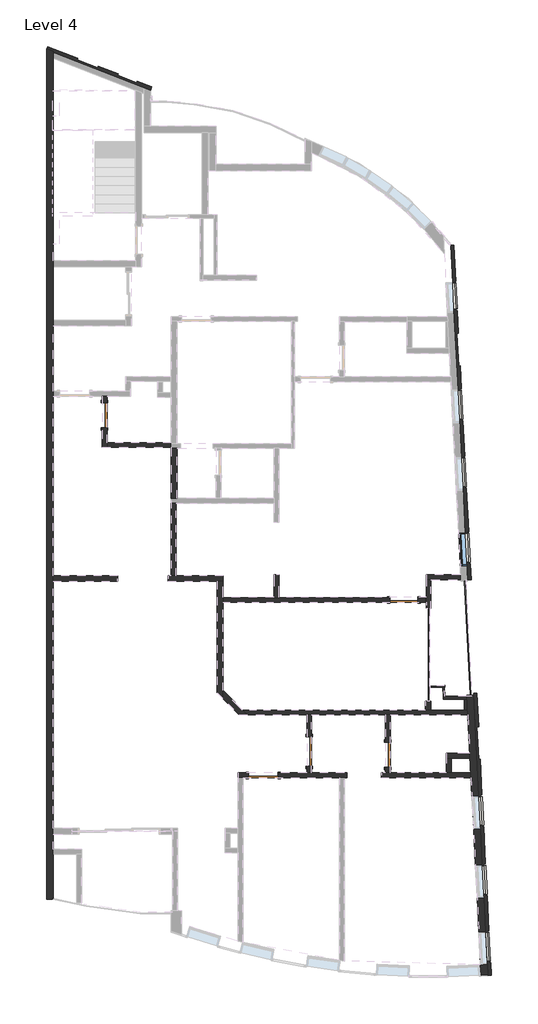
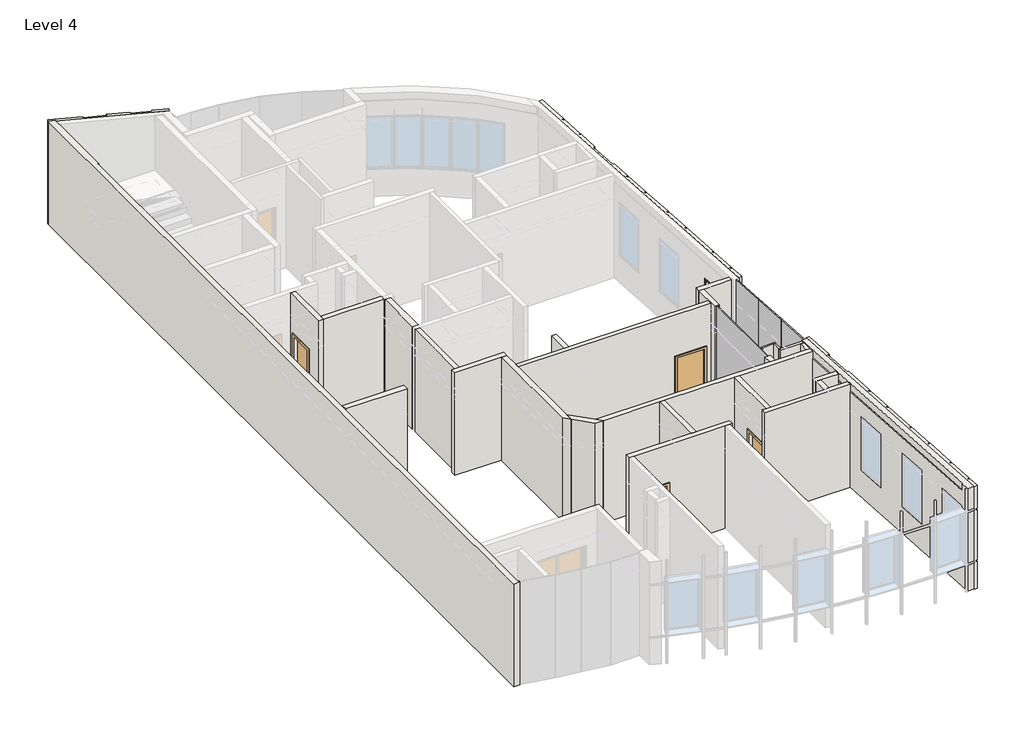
# One storey, part 2 of 5: 28 walls, 5 doors, 4 plates, 1 window.
"""IFC4 building model written with IfcOpenShell, lengths in millimetres."""

from ifc_helpers import new_model, si_unit, frame, origin, place, context, project, spatial, polyline, circle_curve, outline, extrude, faceted_brep, transform, mapped, element, save
from ifc_brep_helpers import plane_surface, cylinder_surface, revolved_surface, advanced_brep
from components import m_single_flush_0762_x_2134mm_8c18b9de, m_single_flush_0762_x_2134mm_1533e4c5, m_single_flush_0864_x_2032mm_5b632350, m_single_flush_0915_x_2134mm_138fd904, system_panel_glazed_de1ac752, system_panel_glazed_2b276406, system_panel_glazed_4e3138d7, wall_fa0acf3e, wall_c10d9c7b, m_fixed_1000_x_1830mm_2_3397196e

model = new_model("IFC4")

# Units and contexts
model_context = context("Model", 3, world=origin())
ifc_project = project(units=[si_unit("LENGTHUNIT", "METRE", prefix="MILLI")], contexts=[model_context])

# Site, building, storey
site = spatial("IfcSite", under=ifc_project)
building = spatial("IfcBuilding", under=site)
storey = spatial("IfcBuildingStorey", under=building, Name="Level 4", Elevation=15000.0)

# Doors
placement = place(None, origin())
m_single_flush_0762_x_2134mm_shape = m_single_flush_0762_x_2134mm_8c18b9de(model_context)
element("IfcDoor", 1, ObjectType="M_Single-Flush : 0762 x 2134mm", at=placement, inside=storey, context=model_context, shape_type="MappedRepresentation", body=[
    mapped(m_single_flush_0762_x_2134mm_shape, transform((1524.9578776, 3975.8830582, 15000.0), x_axis=(0.0, 1.0, 0.0), y_axis=(-1.0, 0.0, 0.0), z_axis=(0.0, 0.0, 1.0))),
])
m_single_flush_0762_x_2134mm_2_shape = m_single_flush_0762_x_2134mm_1533e4c5(model_context)
element("IfcDoor", 2, ObjectType="M_Single-Flush : 0762 x 2134mm", at=placement, inside=storey, context=model_context, shape_type="MappedRepresentation", body=[
    mapped(m_single_flush_0762_x_2134mm_2_shape, transform((10205.2907737, -6412.7981953, 15000.0), x_axis=(0.0, -1.0, 0.0), y_axis=(1.0, 0.0, 0.0), z_axis=(0.0, 0.0, 1.0))),
])
m_single_flush_0864_x_2032mm_shape = m_single_flush_0864_x_2032mm_5b632350(model_context)
element("IfcDoor", 3, ObjectType="M_Single-Flush : 0864 x 2032mm", at=placement, inside=storey, context=model_context, shape_type="MappedRepresentation", body=[
    mapped(m_single_flush_0864_x_2032mm_shape, transform((10697.9578778, -1678.9547298, 15000.0), x_axis=(1.0, 0.0, 0.0), y_axis=(0.0, 1.0, 0.0), z_axis=(0.0, 0.0, 1.0))),
])
m_single_flush_0915_x_2134mm_shape = m_single_flush_0915_x_2134mm_138fd904(model_context)
element("IfcDoor", 4, ObjectType="M_Single-Flush : 0915 x 2134mm", at=placement, inside=storey, context=model_context, shape_type="MappedRepresentation", body=[
    mapped(m_single_flush_0915_x_2134mm_shape, transform((6387.7907737, -7048.7981953, 15000.0), x_axis=(-1.0, 0.0, 0.0), y_axis=(0.0, -1.0, 0.0), z_axis=(0.0, 0.0, 1.0))),
])
element("IfcDoor", 5, ObjectType="M_Single-Flush : 0915 x 2134mm", at=placement, inside=storey, context=model_context, shape_type="MappedRepresentation", body=[
    mapped(m_single_flush_0915_x_2134mm_shape, transform((7795.2909314, -6316.2981953, 15000.0), x_axis=(0.0, -1.0, 0.0), y_axis=(1.0, 0.0, 0.0), z_axis=(0.0, 0.0, 1.0))),
])

# Plates
system_panel_glazed_shape = system_panel_glazed_de1ac752(model_context)
element("IfcPlate", 6, ObjectType="System Panel : Glazed", at=placement, inside=storey, context=model_context, shape_type="MappedRepresentation", body=[
    mapped(system_panel_glazed_shape, transform((12744.4041239, -4004.5629241, 15000.0), x_axis=(-0.05083502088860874, 0.9987070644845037, 0.0), y_axis=(-0.9987070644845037, -0.05083502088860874, 0.0), z_axis=(0.0, 0.0, 1.0))),
])
element("IfcPlate", 7, ObjectType="System Panel : Glazed", at=placement, inside=storey, context=model_context, shape_type="MappedRepresentation", body=[
    mapped(system_panel_glazed_shape, transform((12685.4354997, -2846.0627293, 15000.0), x_axis=(-0.05083502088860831, 0.9987070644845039, 0.0), y_axis=(-0.9987070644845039, -0.05083502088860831, 0.0), z_axis=(0.0, 0.0, 1.0))),
])
system_panel_glazed_2_shape = system_panel_glazed_2b276406(model_context)
element("IfcPlate", 8, ObjectType="System Panel : Glazed", at=placement, inside=storey, context=model_context, shape_type="MappedRepresentation", body=[
    mapped(system_panel_glazed_2_shape, transform((12626.3225461, -1684.727034, 15000.0), x_axis=(-0.05083502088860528, 0.998707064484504, 0.0), y_axis=(-0.998707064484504, -0.05083502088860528, 0.0), z_axis=(0.0, 0.0, 1.0))),
])
system_panel_glazed_3_shape = system_panel_glazed_4e3138d7(model_context)
element("IfcPlate", 9, ObjectType="System Panel : Glazed", at=placement, inside=storey, context=model_context, shape_type="MappedRepresentation", body=[
    mapped(system_panel_glazed_3_shape, transform((11490.9685725, -3358.899384, 15000.0), x_axis=(0.0, 1.0, 0.0), y_axis=(-1.0, 0.0, 0.0), z_axis=(0.0, 0.0, 1.0))),
])

# Walls
element("IfcWall", 10, ObjectType="Generic - 15cm-gypsu-2boith", at=placement, inside=storey, context=model_context, shape_type="Brep", body=[
    faceted_brep([(11349.9578778, -1603.9547298, 15000.0), (11129.9578778, -1603.9547298, 15000.0), (11129.9578778, -1603.9547298, 17032.0), (10265.9578778, -1603.9547298, 17032.0), (10265.9578778, -1603.9547298, 15000.0), (6869.9578779, -1603.9547298, 15000.0), (6719.9578779, -1603.9547298, 15000.0), (5149.9578778, -1603.9547298, 15000.0), (5149.9578778, -1603.9547298, 18500.0), (6719.9578779, -1603.9547298, 18500.0), (6869.9578779, -1603.9547298, 18500.0), (11349.9578778, -1603.9547298, 18500.0), (11129.9578778, -1753.9547298, 17032.0), (11129.9578778, -1753.9547298, 15000.0), (11349.9578778, -1753.9547298, 15000.0), (11349.9578778, -1753.9547298, 18500.0), (5149.9578778, -1753.9547298, 18500.0), (5149.9578778, -1753.9547298, 15000.0), (10265.9578778, -1753.9547298, 15000.0), (10265.9578778, -1753.9547298, 17032.0)], [[[0, 1, 2, 3, 4, 5, 6, 7, 8, 9, 10, 11]], [[12, 13, 14, 15, 16, 17, 18, 19]], [[18, 17, 7, 6, 5, 4]], [[14, 13, 1, 0]], [[11, 10, 9, 8, 16, 15]], [[0, 11, 15, 14]], [[8, 7, 17, 16]], [[2, 1, 13, 12]], [[3, 2, 12, 19]], [[4, 3, 19, 18]]]),
])
element("IfcWall", 11, ObjectType="Generic - 15cm-gypsu-2boith", at=placement, inside=storey, context=model_context, shape_type="Brep", body=[
    faceted_brep([(12423.9334548, -903.8603265, 15000.0), (11379.9578778, -903.8603265, 15000.0), (11379.9578778, -903.8603265, 18500.0), (12423.9334548, -903.8603265, 18500.0), (12423.9334548, -1053.8603265, 15000.0), (12423.9334548, -1053.8603265, 18500.0), (11529.9578778, -1053.8603265, 18500.0), (11379.9578778, -1053.8603265, 18500.0), (11379.9578778, -1053.8603265, 15000.0), (11529.9578778, -1053.8603265, 15000.0)], [[[0, 1, 2, 3]], [[4, 5, 6, 7, 8, 9]], [[1, 0, 4, 9, 8]], [[3, 2, 7, 6, 5]], [[0, 3, 5, 4]], [[2, 1, 8, 7]]]),
])
element("IfcWall", 12, ObjectType="Generic - 15cm-gypsu-2boith", at=placement, inside=storey, context=model_context, shape_type="SweptSolid", body=[
    extrude(outline(polyline([(11379.9578778, -1933.9547288), (11379.9578778, -1053.8603265), (11529.9578778, -1053.8603265), (11529.9578778, -1933.9547288), (11379.9578778, -1933.9547288)])), frame((0.0, 0.0, 15000.0), z_axis=(0.0, 0.0, 1.0), x_axis=(1.0, 0.0, 0.0)), (0.0, 0.0, 1.0), 3500.0),
])
element("IfcWall", 13, ObjectType="Generic - 15cm-gypsu-2boith", at=placement, inside=storey, context=model_context, shape_type="SweptSolid", body=[
    extrude(outline(polyline([(3569.9578779, -933.1221936), (3569.9578779, 1276.8778064), (3719.9578779, 1276.8778064), (3719.9578779, -933.1221936), (3569.9578779, -933.1221936)])), frame((0.0, 0.0, 15000.0), z_axis=(0.0, 0.0, 1.0), x_axis=(1.0, 0.0, 0.0)), (0.0, 0.0, 1.0), 3500.0),
])
element("IfcWall", 14, ObjectType="Generic - 18cm-gypsu-2boith 2", at=placement, inside=storey, context=model_context, shape_type="Brep", body=[
    faceted_brep([(5149.9578778, -933.1221936, 15000.0), (3719.9578779, -933.1221936, 15000.0), (3569.9578779, -933.1221936, 15000.0), (3473.9578779, -933.1221936, 15000.0), (3473.9578779, -933.1221936, 18500.0), (3569.9578779, -933.1221936, 18500.0), (3719.9578779, -933.1221936, 18500.0), (5149.9578778, -933.1221936, 18500.0), (5149.9578778, -1113.1221936, 15000.0), (5149.9578778, -1113.1221936, 18500.0), (4969.9578778, -1113.1221936, 18500.0), (3473.9578779, -1113.1221936, 18500.0), (3473.9578779, -1113.1221936, 15000.0), (4969.9578778, -1113.1221936, 15000.0)], [[[0, 1, 2, 3, 4, 5, 6, 7]], [[8, 9, 10, 11, 12, 13]], [[3, 2, 1, 0, 8, 13, 12]], [[4, 3, 12, 11]], [[7, 6, 5, 4, 11, 10, 9]], [[0, 7, 9, 8]]]),
])
element("IfcWall", 15, ObjectType="Generic - 18cm-gypsu-2boith 2", at=placement, inside=storey, context=model_context, shape_type="Brep", body=[
    faceted_brep([(4969.9578778, -1113.1221936, 15000.0), (4969.9578778, -4517.9715169, 15000.0), (4969.9578778, -4517.9715169, 18500.0), (4969.9578778, -1113.1221936, 18500.0), (5149.9578778, -1113.1221936, 15000.0), (5149.9578778, -1113.1221936, 18500.0), (5149.9578778, -1603.9547298, 18500.0), (5149.9578778, -1753.9547298, 18500.0), (5149.9578778, -4443.9569428, 18500.0), (5149.9578778, -4699.8400417, 18500.0), (5149.9578778, -4699.8400417, 15000.0), (5149.9578778, -4443.9569428, 15000.0), (5149.9578778, -1753.9547298, 15000.0), (5149.9578778, -1603.9547298, 15000.0)], [[[0, 1, 2, 3]], [[4, 5, 6, 7, 8, 9, 10, 11, 12, 13]], [[1, 0, 4, 13, 12, 11, 10]], [[3, 2, 9, 8, 7, 6, 5]], [[2, 1, 10, 9]], [[0, 3, 5, 4]]]),
])
element("IfcWall", 16, ObjectType="Generic - 18cm-gypsu-2boith 2", at=placement, inside=storey, context=model_context, shape_type="Brep", body=[
    faceted_brep([(5149.9578778, -4699.8400417, 15000.0), (5643.7897147, -5198.7981953, 15000.0), (5643.7897147, -5198.7981953, 18500.0), (5149.9578778, -4699.8400417, 18500.0), (5149.9578778, -4443.9569428, 15000.0), (5149.9578778, -4443.9569428, 18500.0), (5748.5849662, -5048.7981953, 18500.0), (5897.04386, -5198.7981953, 18500.0), (5897.04386, -5198.7981953, 15000.0), (5748.5849662, -5048.7981953, 15000.0)], [[[0, 1, 2, 3]], [[4, 5, 6, 7, 8, 9]], [[1, 0, 4, 9, 8]], [[3, 2, 7, 6, 5]], [[0, 3, 5, 4]], [[2, 1, 8, 7]]]),
])
element("IfcWall", 17, ObjectType="Generic - 15cm-granit&gypsum", at=placement, inside=storey, context=model_context, shape_type="Brep", body=[
    faceted_brep([(12647.2976465, -5048.7981953, 15000.0), (12641.1322496, -5048.7981953, 15000.0), (12541.1322496, -5048.7981953, 15000.0), (11529.9578778, -5048.7981953, 15000.0), (11349.9578778, -5048.7981953, 15000.0), (5748.5849662, -5048.7981953, 15000.0), (5748.5849662, -5048.7981953, 18500.0), (11349.9578778, -5048.7981953, 18500.0), (11529.9578778, -5048.7981953, 18500.0), (12541.1322496, -5048.7981953, 18500.0), (12641.1322496, -5048.7981953, 18500.0), (12647.2976465, -5048.7981953, 18500.0), (12654.9327714, -5198.7981953, 15000.0), (12654.9327714, -5198.7981953, 18500.0), (10280.2907737, -5198.7981953, 18500.0), (10130.2907737, -5198.7981953, 18500.0), (7870.2909314, -5198.7981953, 18500.0), (7720.2909314, -5198.7981953, 18500.0), (5897.04386, -5198.7981953, 18500.0), (5897.04386, -5198.7981953, 15000.0), (7720.2909314, -5198.7981953, 15000.0), (7870.2909314, -5198.7981953, 15000.0), (10130.2907737, -5198.7981953, 15000.0), (10280.2907737, -5198.7981953, 15000.0)], [[[0, 1, 2, 3, 4, 5, 6, 7, 8, 9, 10, 11]], [[12, 13, 14, 15, 16, 17, 18, 19, 20, 21, 22, 23]], [[5, 4, 3, 2, 1, 0, 12, 23, 22, 21, 20, 19]], [[11, 10, 9, 8, 7, 6, 18, 17, 16, 15, 14, 13]], [[6, 5, 19, 18]], [[0, 11, 13, 12]]]),
])
element("IfcWall", 18, ObjectType="Generic - 15cm-gypsu-2boith", at=placement, inside=storey, context=model_context, shape_type="SweptSolid", body=[
    extrude(outline(polyline([(-6773.7981953, 17134.0), (-6773.7981953, 15000.0), (-6973.7981953, 15000.0), (-6973.7981953, 18500.0), (-5198.7981953, 18500.0), (-5198.7981953, 15000.0), (-5858.7981953, 15000.0), (-5858.7981953, 17134.0), (-6773.7981953, 17134.0)])), frame((7720.2909314, 0.0, 0.0), z_axis=(1.0, 0.0, 0.0), x_axis=(0.0, 1.0, 0.0)), (0.0, 0.0, 1.0), 150.0),
])
element("IfcWall", 19, ObjectType="Generic - 15cm-granit&gypsum", at=placement, inside=storey, context=model_context, shape_type="Brep", body=[
    faceted_brep([(12745.2817489, -6973.7981953, 15000.0), (12147.4732011, -6973.7981953, 15000.0), (11997.4732011, -6973.7981953, 15000.0), (10280.2907737, -6973.7981953, 15000.0), (10130.2907737, -6973.7981953, 15000.0), (10005.6168737, -6973.7981953, 15000.0), (10005.6168737, -6973.7981953, 18500.0), (10130.2907737, -6973.7981953, 18500.0), (10280.2907737, -6973.7981953, 18500.0), (11997.4732011, -6973.7981953, 18500.0), (12147.4732011, -6973.7981953, 18500.0), (12745.2817489, -6973.7981953, 18500.0), (12752.9168737, -7123.7981953, 15000.0), (12752.9168737, -7123.7981953, 18500.0), (10005.6168737, -7123.7981953, 18500.0), (10005.6168737, -7123.7981953, 15000.0)], [[[0, 1, 2, 3, 4, 5, 6, 7, 8, 9, 10, 11]], [[12, 13, 14, 15]], [[5, 4, 3, 2, 1, 0, 12, 15]], [[6, 5, 15, 14]], [[11, 10, 9, 8, 7, 6, 14, 13]], [[0, 11, 13, 12]]]),
])
element("IfcWall", 20, ObjectType="Generic - 15cm-gypsu-2boith", at=placement, inside=storey, context=model_context, shape_type="Brep", body=[
    faceted_brep([(12714.7412494, -6373.7981953, 15000.0), (11997.4732011, -6373.7981953, 15000.0), (11997.4732011, -6373.7981953, 18500.0), (12714.7412494, -6373.7981953, 18500.0), (12722.3763743, -6523.7981953, 15000.0), (12722.3763743, -6523.7981953, 18500.0), (12147.4732011, -6523.7981953, 18500.0), (11997.4732011, -6523.7981953, 18500.0), (11997.4732011, -6523.7981953, 15000.0), (12147.4732011, -6523.7981953, 15000.0)], [[[0, 1, 2, 3]], [[4, 5, 6, 7, 8, 9]], [[1, 0, 4, 9, 8]], [[3, 2, 7, 6, 5]], [[0, 3, 5, 4]], [[2, 1, 8, 7]]]),
])
element("IfcWall", 21, ObjectType="Generic - 15cm-gypsu-2boith", at=placement, inside=storey, context=model_context, shape_type="SweptSolid", body=[
    extrude(outline(polyline([(11997.4732011, -6973.7981953), (11997.4732011, -6523.7981953), (12147.4732011, -6523.7981953), (12147.4732011, -6973.7981953), (11997.4732011, -6973.7981953)])), frame((0.0, 0.0, 15000.0), z_axis=(0.0, 0.0, 1.0), x_axis=(1.0, 0.0, 0.0)), (0.0, 0.0, 1.0), 3500.0),
])
element("IfcWall", 22, ObjectType="Generic - 10cm-gypsu-2boith", at=placement, inside=storey, context=model_context, shape_type="Brep", body=[
    faceted_brep([(11904.953185, -4724.0941461, 15000.0), (12541.1322496, -4725.6672919, 15000.0), (12641.1322496, -4725.9145722, 15000.0), (12641.1322496, -4725.9145722, 18500.0), (12541.1322496, -4725.6672919, 18500.0), (11904.953185, -4724.0941461, 18500.0), (11899.8624455, -4624.081252, 15000.0), (11899.8624455, -4624.081252, 18500.0), (11949.9334783, -4624.2050678, 18500.0), (12641.1322496, -4625.9142665, 18500.0), (12641.1322496, -4625.9142665, 15000.0), (11949.9334783, -4624.2050678, 15000.0)], [[[0, 1, 2, 3, 4, 5]], [[6, 7, 8, 9, 10, 11]], [[2, 1, 0, 6, 11, 10]], [[5, 4, 3, 9, 8, 7]], [[3, 2, 10, 9]], [[0, 5, 7, 6]]]),
])
element("IfcWall", 23, ObjectType="Generic - 10cm-gypsu-2boith", at=placement, inside=storey, context=model_context, shape_type="Brep", body=[
    faceted_brep([(12641.1322496, -5048.7981953, 15000.0), (12641.1322496, -4927.672536, 15000.0), (12641.1322496, -4725.9145722, 15000.0), (12641.1322496, -4725.9145722, 18259.0), (12641.1322496, -4725.9145722, 18500.0), (12641.1322496, -5048.7981953, 18500.0), (12541.1322496, -5048.7981953, 15000.0), (12541.1322496, -5048.7981953, 18500.0), (12541.1322496, -4725.6672919, 18500.0), (12541.1322496, -4725.6672919, 15000.0), (12630.8613086, -4725.8891742, 15000.0)], [[[0, 1, 2, 3, 4, 5]], [[6, 7, 8, 9]], [[2, 1, 0, 6, 9, 10]], [[5, 4, 8, 7]], [[4, 3, 2, 10, 9, 8]], [[0, 5, 7, 6]]]),
])
element("IfcWall", 24, ObjectType="Antick", at=placement, inside=storey, context=model_context, shape_type="SweptSolid", body=[
    extrude(outline(polyline([(11899.8624455, -4624.081252), (11885.9208288, -4350.1836358), (11935.856182, -4347.6418848), (11949.9334783, -4624.2050678), (11899.8624455, -4624.081252)])), frame((0.0, 0.0, 15000.0), z_axis=(0.0, 0.0, 1.0), x_axis=(1.0, 0.0, 0.0)), (0.0, 0.0, 1.0), 3500.0),
])
element("IfcWall", 25, ObjectType="Antick", at=placement, inside=storey, context=model_context, shape_type="Brep", body=[
    faceted_brep([(11506.4121443, -4369.5009438, 15000.0), (11885.9208288, -4350.1836358, 15000.0), (11935.856182, -4347.6418848, 15000.0), (11955.8303233, -4346.6251844, 15000.0), (11955.8303233, -4346.6251844, 18500.0), (11935.856182, -4347.6418848, 18500.0), (11885.9208288, -4350.1836358, 18500.0), (11506.4121443, -4369.5009438, 18500.0), (11503.8703933, -4319.5655905, 15000.0), (11503.8703933, -4319.5655905, 18500.0), (11953.2885723, -4296.6898311, 18500.0), (11953.2885723, -4296.6898311, 15000.0)], [[[0, 1, 2, 3, 4, 5, 6, 7]], [[8, 9, 10, 11]], [[3, 2, 1, 0, 8, 11]], [[4, 3, 11, 10]], [[7, 6, 5, 4, 10, 9]], [[0, 7, 9, 8]]]),
])
element("IfcWall", 26, ObjectType="Generic - 18cm-gypsu-2boith 2", at=placement, inside=storey, context=model_context, shape_type="SweptSolid", body=[
    extrude(outline(polyline([(11529.9578778, -4783.8440392), (11529.9578778, -5048.7981953), (11349.9578778, -5048.7981953), (11349.9578778, -4783.8440392), (11529.9578778, -4783.8440392)])), frame((0.0, 0.0, 15000.0), z_axis=(0.0, 0.0, 1.0), x_axis=(1.0, 0.0, 0.0)), (0.0, 0.0, 1.0), 3500.0),
])
element("IfcWall", 27, ObjectType="Generic - 15cm-granit&gypsum", at=placement, inside=storey, context=model_context, shape_type="Brep", body=[
    faceted_brep([(1599.9578776, 4356.8830582, 17134.0), (1599.9578776, 4356.8830582, 15000.0), (1599.9578776, 4556.8830582, 15000.0), (1599.9578776, 4556.8830582, 18500.0), (1599.9578776, 3136.8778064, 18500.0), (1599.9578776, 2986.8778064, 18500.0), (1599.9578776, 2986.8778064, 15000.0), (1599.9578776, 3136.8778064, 15000.0), (1599.9578776, 3594.8830582, 15000.0), (1599.9578776, 3594.8830582, 17134.0), (1449.9578776, 4556.8830582, 15000.0), (1449.9578776, 4356.8830582, 15000.0), (1449.9578776, 4356.8830582, 17134.0), (1449.9578776, 3594.8830582, 17134.0), (1449.9578776, 3594.8830582, 15000.0), (1449.9578776, 2986.8778064, 15000.0), (1449.9578776, 2986.8778064, 18500.0), (1449.9578776, 4556.8830582, 18500.0)], [[[0, 1, 2, 3, 4, 5, 6, 7, 8, 9]], [[10, 11, 12, 13, 14, 15, 16, 17]], [[2, 1, 11, 10]], [[8, 7, 6, 15, 14]], [[5, 4, 3, 17, 16]], [[3, 2, 10, 17]], [[6, 5, 16, 15]], [[12, 11, 1, 0]], [[13, 12, 0, 9]], [[14, 13, 9, 8]]]),
])
element("IfcWall", 28, ObjectType="Generic - 18cm-gypsu-2boith 2", at=placement, inside=storey, context=model_context, shape_type="SweptSolid", body=[
    extrude(outline(polyline([(3569.9578779, 1426.8778064), (3569.9578779, 2956.8778064), (3749.9578779, 2956.8778064), (3749.9578779, 1426.8778064), (3569.9578779, 1426.8778064)])), frame((0.0, 0.0, 15000.0), z_axis=(0.0, 0.0, 1.0), x_axis=(1.0, 0.0, 0.0)), (0.0, 0.0, 1.0), 3500.0),
])
element("IfcWall", 29, ObjectType="Generic - 15cm-granit&gypsum", at=placement, inside=storey, context=model_context, shape_type="SweptSolid", body=[
    extrude(outline(polyline([(1599.9578776, 3136.8778064), (3549.9578779, 3136.8778064), (3549.9578779, 2986.8778064), (1599.9578776, 2986.8778064), (1599.9578776, 3136.8778064)])), frame((0.0, 0.0, 15000.0), z_axis=(0.0, 0.0, 1.0), x_axis=(1.0, 0.0, 0.0)), (0.0, 0.0, 1.0), 3500.0),
])
element("IfcWall", 30, ObjectType="Generic - 18cm-gypsu-2boith 2", at=placement, inside=storey, context=model_context, shape_type="SweptSolid", body=[
    extrude(outline(polyline([(-50.0421304, -933.1221936), (1933.9578781, -933.1221936), (1933.9578781, -1113.1221936), (-50.0421304, -1113.1221936), (-50.0421304, -933.1221936)])), frame((0.0, 0.0, 15000.0), z_axis=(0.0, 0.0, 1.0), x_axis=(1.0, 0.0, 0.0)), (0.0, 0.0, 1.0), 3500.0),
])
element("IfcWall", 31, ObjectType="Generic - 15cm-granit&gypsum", at=placement, inside=storey, context=model_context, shape_type="Brep", body=[
    faceted_brep([(5930.2907737, -6973.7981953, 17134.0), (5930.2907737, -6973.7981953, 15000.0), (5620.2907737, -6973.7981953, 15000.0), (5620.2907737, -6973.7981953, 18500.0), (7720.2909314, -6973.7981953, 18500.0), (7870.2909314, -6973.7981953, 18500.0), (8947.5168737, -6973.7981953, 18500.0), (8947.5168737, -6973.7981953, 15000.0), (7870.2909314, -6973.7981953, 15000.0), (7720.2909314, -6973.7981953, 15000.0), (6845.2907737, -6973.7981953, 15000.0), (6845.2907737, -6973.7981953, 17134.0), (5620.2907737, -7123.7981953, 15000.0), (5770.2907737, -7123.7981953, 15000.0), (5930.2907737, -7123.7981953, 15000.0), (5930.2907737, -7123.7981953, 17134.0), (6845.2907737, -7123.7981953, 17134.0), (6845.2907737, -7123.7981953, 15000.0), (8720.2907737, -7123.7981953, 15000.0), (8870.2907737, -7123.7981953, 15000.0), (8947.5168737, -7123.7981953, 15000.0), (8947.5168737, -7123.7981953, 18500.0), (8870.2907737, -7123.7981953, 18500.0), (8720.2907737, -7123.7981953, 18500.0), (5770.2907737, -7123.7981953, 18500.0), (5620.2907737, -7123.7981953, 18500.0)], [[[0, 1, 2, 3, 4, 5, 6, 7, 8, 9, 10, 11]], [[12, 13, 14, 15, 16, 17, 18, 19, 20, 21, 22, 23, 24, 25]], [[2, 1, 14, 13, 12]], [[10, 9, 8, 7, 20, 19, 18, 17]], [[6, 5, 4, 3, 25, 24, 23, 22, 21]], [[7, 6, 21, 20]], [[3, 2, 12, 25]], [[17, 16, 11, 10]], [[16, 15, 0, 11]], [[15, 14, 1, 0]]]),
])
element("IfcWall", 32, ObjectType="Generic - 15cm-granit&gypsum", at=placement, inside=storey, context=model_context, shape_type="SweptSolid", body=[
    extrude(outline(polyline([(6719.9578779, -1603.9547298), (6719.9578779, -903.9547298), (6869.9578779, -903.9547298), (6869.9578779, -1603.9547298), (6719.9578779, -1603.9547298)])), frame((0.0, 0.0, 15000.0), z_axis=(0.0, 0.0, 1.0), x_axis=(1.0, 0.0, 0.0)), (0.0, 0.0, 1.0), 3500.0),
])
wall_shape = wall_fa0acf3e(model_context)
element("IfcWall", 33, ObjectType="kamposite4 : kamposite", at=placement, inside=storey, context=model_context, shape_type="MappedRepresentation", body=[
    mapped(wall_shape, transform((-2.0334008, 39.9482826, 2000.0), x_axis=(1.0, 0.0, 0.0), y_axis=(0.0, 1.0, 0.0), z_axis=(0.0, 0.0, 1.0))),
])
wall_2_shape = wall_c10d9c7b(model_context)
element("IfcWall", 34, ObjectType="kamposite5 : kamposite2", at=placement, inside=storey, context=model_context, shape_type="MappedRepresentation", body=[
    mapped(wall_2_shape, transform((0.0, 0.0, 2000.0), x_axis=(1.0, 0.0, 0.0), y_axis=(0.0, 1.0, 0.0), z_axis=(0.0, 0.0, 1.0))),
])
element("IfcWall", 35, ObjectType="Generic - 15cm-granit 2", at=placement, inside=storey, context=model_context, shape_type="SweptSolid", body=[
    extrude(outline(polyline([(-6793.7981953, 17134.0), (-6793.7981953, 15000.0), (-6973.7981953, 15000.0), (-6973.7981953, 18500.0), (-5198.7981953, 18500.0), (-5198.7981953, 15000.0), (-6031.7981953, 15000.0), (-6031.7981953, 17134.0), (-6793.7981953, 17134.0)])), frame((10130.2907737, 0.0, 0.0), z_axis=(1.0, 0.0, 0.0), x_axis=(0.0, 1.0, 0.0)), (0.0, 0.0, 1.0), 150.0),
])
element("IfcWall", 36, ObjectType="Generic - 20cm-gypsum", at=placement, inside=storey, context=model_context, shape_type="Brep", body=[
    faceted_brep([(-50.0421304, -10845.40247, 15000.0), (-50.0421304, -9462.1185157, 15000.0), (-50.0421304, -9312.1185157, 15000.0), (-50.0421304, -8842.2362629, 15000.0), (-50.0421304, -8662.2362629, 15000.0), (-50.0421304, -1113.1221936, 15000.0), (-50.0421304, -933.1221936, 15000.0), (-50.0421304, 4556.8830582, 15000.0), (-50.0421304, 4706.8830582, 15000.0), (-50.0421304, 6706.8748838, 15000.0), (-50.0421304, 6886.8748838, 15000.0), (-50.0421304, 8516.8748746, 15000.0), (-50.0421304, 8696.8748746, 15000.0), (-50.0421304, 14901.0479686, 15000.0), (-50.0421304, 15115.5710671, 15000.0), (-50.0421304, 15115.5710671, 18500.0), (-50.0421304, 14901.0479686, 18500.0), (-50.0421304, 12688.8107611, 18500.0), (-50.0421304, 12688.8107611, 18259.0), (-50.0421304, -10787.9093736, 18259.0), (-50.0421304, -10787.9093736, 18500.0), (-50.0421304, -10845.40247, 18500.0), (-250.0421304, 15193.1607555, 15000.0), (-250.0421304, -10845.40247, 15000.0), (-250.0421304, -10845.40247, 18500.0), (-250.0421304, 15193.1607555, 18500.0), (-80.0421304, -10781.5326767, 18500.0), (-80.0421304, 12688.8107611, 18500.0), (-80.0421304, 12688.8107611, 18259.0), (-80.0421304, -10781.5326767, 18259.0)], [[[0, 1, 2, 3, 4, 5, 6, 7, 8, 9, 10, 11, 12, 13, 14, 15, 16, 17, 18, 19, 20, 21]], [[22, 23, 24, 25]], [[14, 13, 12, 11, 10, 9, 8, 7, 6, 5, 4, 3, 2, 1, 0, 23, 22]], [[25, 24, 21, 20, 26, 27, 17, 16, 15]], [[0, 21, 24, 23]], [[15, 14, 22, 25]], [[28, 29, 19, 18]], [[29, 26, 20, 19]], [[29, 28, 27, 26]], [[27, 28, 18, 17]]]),
])
element("IfcWall", 37, ObjectType="Generic - 20cm-gypsum", at=placement, inside=storey, context=model_context, shape_type="AdvancedBrep", body=[
    advanced_brep(
    [(12624.0178131, -4591.441561, 15000.0), (12630.8613086, -4725.8891742, 15000.0), (12630.8613086, -4725.8891742, 18259.0), (12624.0178131, -4591.441561, 18259.0), (12641.1322496, -4927.672536, 15000.0), (12647.2976465, -5048.7981953, 15000.0), (12654.9327714, -5198.7981953, 15000.0), (12714.7412494, -6373.7981953, 15000.0), (12722.3763743, -6523.7981953, 15000.0), (12745.2817489, -6973.7981953, 15000.0), (12752.9168737, -7123.7981953, 15000.0), (13044.0399551, -12843.2151043, 15000.0), (13060.3079076, -13162.8160173, 15000.0), (13060.3079076, -13162.8160173, 15901.1018524), (13059.0369746, -13137.84721, 15901.1018524), (13059.0369746, -13137.84721, 15951.1018524), (13060.3079076, -13162.8160173, 15951.1018524), (13060.3079076, -13162.8160173, 17695.0), (13059.0369746, -13137.84721, 17695.0), (13059.0369746, -13137.84721, 17745.0), (13060.3079076, -13162.8160173, 17745.0), (13060.3079076, -13162.8160173, 18500.0), (13045.5650765, -12873.1777067, 18500.0), (13045.5650765, -12873.1777067, 18259.0), (13044.0399551, -12843.2151043, 18259.0), (12641.1322496, -4927.672536, 18259.0), (13044.1204917, -12844.7973291, 15900.0), (12993.2854708, -11846.0902646, 15900.0), (12993.2854708, -11846.0902646, 17730.0), (13044.1204917, -12844.7973291, 17730.0), (12939.9086989, -10797.4478469, 15900.0), (12889.073678, -9798.7407824, 15900.0), (12889.073678, -9798.7407824, 17730.0), (12939.9086989, -10797.4478469, 17730.0), (12832.6468048, -8690.1759409, 15900.0), (12781.8117839, -7691.4688764, 15900.0), (12781.8117839, -7691.4688764, 17730.0), (12832.6468048, -8690.1759409, 17730.0), (12823.759226, -4581.2745568, 18500.0), (13259.9103282, -13149.9183632, 18500.0), (13259.9103282, -13149.9183632, 17745.0), (13258.6392504, -13124.9467139, 17745.0), (13258.6392504, -13124.9467139, 17695.0), (13259.9103282, -13149.9183632, 17695.0), (13259.9103282, -13149.9183632, 15951.1018524), (13258.6392504, -13124.9467139, 15951.1018524), (13258.6392504, -13124.9467139, 15901.1018524), (13259.9103282, -13149.9183632, 15901.1018524), (13259.9103282, -13149.9183632, 15000.0), (12823.759226, -4581.2745568, 15000.0), (13193.0268837, -11835.9232605, 15900.0), (13243.8619046, -12834.6303249, 15900.0), (13243.8619046, -12834.6303249, 17730.0), (13193.0268837, -11835.9232605, 17730.0), (13088.8150909, -9788.5737783, 15900.0), (13139.6501118, -10787.2808427, 15900.0), (13139.6501118, -10787.2808427, 17730.0), (13088.8150909, -9788.5737783, 17730.0), (12981.5531968, -7681.3018722, 15900.0), (13032.3882177, -8680.0089367, 15900.0), (13032.3882177, -8680.0089367, 17730.0), (12981.5531968, -7681.3018722, 17730.0), (12653.9790251, -4589.9165104, 18500.0), (13075.5106422, -12871.3452698, 18500.0), (12641.1322496, -4725.9145722, 15000.0), (12653.9790251, -4589.9165104, 18259.0), (12641.1322496, -4725.9145722, 18259.0), (13075.5106422, -12871.3452698, 18259.0)],
    [
        (0, 1),
        (1, 2),
        (2, 3),
        (3, 0),
        (4, 5),
        (5, 6),
        (6, 7),
        (7, 8),
        (8, 9),
        (9, 10),
        (10, 11),
        (11, 12),
        (12, 13),
        (13, 14),
        (14, 15),
        (15, 16),
        (16, 17),
        (17, 18),
        (18, 19),
        (19, 20),
        (20, 21),
        (21, 22),
        (22, 23),
        (23, 24),
        (24, 25),
        (25, 4),
        (26, 27),
        (27, 28),
        (28, 29),
        (29, 26),
        (30, 31),
        (31, 32),
        (32, 33),
        (33, 30),
        (34, 35),
        (35, 36),
        (36, 37),
        (37, 34),
        (38, 39),
        (39, 40),
        (40, 41),
        (41, 42),
        (42, 43),
        (43, 44),
        (44, 45),
        (45, 46),
        (46, 47),
        (47, 48),
        (48, 49),
        (49, 38),
        (50, 51),
        (51, 52),
        (52, 53),
        (53, 50),
        (54, 55),
        (55, 56),
        (56, 57),
        (57, 54),
        (58, 59),
        (59, 60),
        (60, 61),
        (61, 58),
        (38, 62),
        (62, 63),
        (63, 22, circle_curve(frame((11609.3245394, 10843.3737526, 18500.0), z_axis=(0.0, 0.0, -1.0), x_axis=(1.0, 0.0, 0.0)), 23760.0)),
        (21, 39, circle_curve(frame((11609.3245394, 10843.3737526, 18500.0), z_axis=(0.0, 0.0, 1.0), x_axis=(-0.33468074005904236, -0.942331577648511, 0.0)), 24050.0)),
        (48, 12, circle_curve(frame((11609.3245394, 10843.3737526, 15000.0), z_axis=(0.0, 0.0, -1.0), x_axis=(-0.33468074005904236, -0.942331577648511, 0.0)), 24050.0)),
        (4, 64),
        (64, 1),
        (0, 49),
        (3, 65),
        (65, 62),
        (20, 40, circle_curve(frame((11609.3245394, 10843.3737526, 17745.0), z_axis=(0.0, 0.0, 1.0), x_axis=(-0.33468074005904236, -0.942331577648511, 0.0)), 24050.0)),
        (47, 13, circle_curve(frame((11609.3245394, 10843.3737526, 15901.1018524), z_axis=(0.0, 0.0, -1.0), x_axis=(-0.33468074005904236, -0.942331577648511, 0.0)), 24050.0)),
        (16, 44, circle_curve(frame((11609.3245394, 10843.3737526, 15951.1018524), z_axis=(0.0, 0.0, 1.0), x_axis=(-0.33468074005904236, -0.942331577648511, 0.0)), 24050.0)),
        (43, 17, circle_curve(frame((11609.3245394, 10843.3737526, 17695.0), z_axis=(0.0, 0.0, -1.0), x_axis=(-0.33468074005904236, -0.942331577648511, 0.0)), 24050.0)),
        (50, 27),
        (26, 51),
        (53, 28),
        (52, 29),
        (54, 31),
        (30, 55),
        (57, 32),
        (56, 33),
        (58, 35),
        (34, 59),
        (61, 36),
        (60, 37),
        (25, 66),
        (66, 64),
        (66, 2),
        (15, 45, circle_curve(frame((11609.3245394, 10843.3737526, 15951.1018524), z_axis=(0.0, 0.0, 1.0), x_axis=(0.06863142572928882, -0.9976420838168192, 0.0)), 24025.0)),
        (46, 14, circle_curve(frame((11609.3245394, 10843.3737526, 15901.1018524), z_axis=(0.0, 0.0, -1.0), x_axis=(0.06863142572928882, -0.9976420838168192, 0.0)), 24025.0)),
        (19, 41, circle_curve(frame((11609.3245394, 10843.3737526, 17745.0), z_axis=(0.0, 0.0, 1.0), x_axis=(0.06863142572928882, -0.9976420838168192, 0.0)), 24025.0)),
        (42, 18, circle_curve(frame((11609.3245394, 10843.3737526, 17695.0), z_axis=(0.0, 0.0, -1.0), x_axis=(0.06863142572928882, -0.9976420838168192, 0.0)), 24025.0)),
        (67, 65),
        (23, 67, circle_curve(frame((11609.3245394, 10843.3737526, 18259.0), z_axis=(0.0, 0.0, 1.0), x_axis=(1.0, 0.0, 0.0)), 23760.0)),
        (67, 63),
    ],
    [
        plane_surface(frame((13052.1146146, -13001.8502213, 18500.0), z_axis=(-0.9987070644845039, -0.05083502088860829, 0.0), x_axis=(-0.05083502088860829, 0.9987070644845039, 0.0))),
        plane_surface(frame((13251.8560275, -12991.6832171, 18500.0), z_axis=(0.9987070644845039, 0.05083502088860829, 0.0), x_axis=(0.05083502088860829, -0.9987070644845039, 0.0))),
        plane_surface(frame((13052.1146146, -13001.8502213, 18500.0), z_axis=(0.0, 0.0, 1.0), x_axis=(0.998707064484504, 0.050835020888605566, 0.0))),
        plane_surface(frame((12624.0178131, -4591.441561, 15000.0), z_axis=(0.0, 0.0, -1.0), x_axis=(0.998707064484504, 0.050835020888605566, 0.0))),
        plane_surface(frame((12624.0178131, -4591.441561, 18500.0), z_axis=(-0.050835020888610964, 0.9987070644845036, 0.0), x_axis=(0.9987070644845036, 0.050835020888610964, 0.0))),
        cylinder_surface(frame((11609.3245394, 10843.3737526, 15000.0), z_axis=(0.0, 0.0, 1.0), x_axis=(-0.33468074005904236, -0.942331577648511, 0.0)), 24050.0),
        plane_surface(frame((13193.0268837, -11835.9232605, 15900.0), z_axis=(0.0, 0.0, 1.0), x_axis=(-0.998707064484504, -0.050835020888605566, 0.0))),
        plane_surface(frame((13193.0268837, -11835.9232605, 17730.0), z_axis=(0.050835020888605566, -0.998707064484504, 0.0), x_axis=(-0.998707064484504, -0.050835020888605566, 0.0))),
        plane_surface(frame((13243.8619046, -12834.6303249, 17730.0), z_axis=(0.0, 0.0, -1.0), x_axis=(-0.998707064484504, -0.050835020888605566, 0.0))),
        plane_surface(frame((13243.8619046, -12834.6303249, 15900.0), z_axis=(-0.050835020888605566, 0.998707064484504, 0.0), x_axis=(-0.998707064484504, -0.050835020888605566, 0.0))),
        plane_surface(frame((13088.8150909, -9788.5737783, 15900.0), z_axis=(0.0, 0.0, 1.0), x_axis=(-0.998707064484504, -0.050835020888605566, 0.0))),
        plane_surface(frame((13088.8150909, -9788.5737783, 17730.0), z_axis=(0.050835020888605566, -0.998707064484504, 0.0), x_axis=(-0.998707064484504, -0.050835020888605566, 0.0))),
        plane_surface(frame((13139.6501118, -10787.2808427, 17730.0), z_axis=(0.0, 0.0, -1.0), x_axis=(-0.998707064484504, -0.050835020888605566, 0.0))),
        plane_surface(frame((13139.6501118, -10787.2808427, 15900.0), z_axis=(-0.050835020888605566, 0.998707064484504, 0.0), x_axis=(-0.998707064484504, -0.050835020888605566, 0.0))),
        plane_surface(frame((12981.5531968, -7681.3018722, 15900.0), z_axis=(0.0, 0.0, 1.0), x_axis=(-0.998707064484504, -0.050835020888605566, 0.0))),
        plane_surface(frame((12981.5531968, -7681.3018722, 17730.0), z_axis=(0.050835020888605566, -0.998707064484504, 0.0), x_axis=(-0.998707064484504, -0.050835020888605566, 0.0))),
        plane_surface(frame((13032.3882177, -8680.0089367, 17730.0), z_axis=(0.0, 0.0, -1.0), x_axis=(-0.998707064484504, -0.050835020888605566, 0.0))),
        plane_surface(frame((13032.3882177, -8680.0089367, 15900.0), z_axis=(-0.050835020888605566, 0.998707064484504, 0.0), x_axis=(-0.998707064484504, -0.050835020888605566, 0.0))),
        plane_surface(frame((12641.1322496, -4755.8842521, 15000.0), z_axis=(-1.0, 0.0, 0.0), x_axis=(0.0, 1.0, 0.0))),
        plane_surface(frame((11949.6861987, -4724.204762, 15000.0), z_axis=(-0.002472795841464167, -0.9999969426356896, 0.0), x_axis=(0.9999969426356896, -0.002472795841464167, 0.0))),
        plane_surface(frame((11609.3245394, 10843.3737526, 15951.1018524), z_axis=(0.0, 0.0, -1.0000000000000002), x_axis=(0.06863142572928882, -0.9976420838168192, 0.0))),
        plane_surface(frame((11609.3245394, 10843.3737526, 15901.1018524), z_axis=(0.0, 0.0, 1.0000000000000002), x_axis=(0.06863142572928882, -0.9976420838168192, 0.0))),
        cylinder_surface(frame((11609.3245394, 10843.3737526, 15926.1018524), z_axis=(0.0, 0.0, -1.0), x_axis=(0.06863142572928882, -0.9976420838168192, 0.0)), 24025.0),
        plane_surface(frame((11609.3245394, 10843.3737526, 17745.0), z_axis=(0.0, 0.0, -1.0000000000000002), x_axis=(0.06863142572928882, -0.9976420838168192, 0.0))),
        plane_surface(frame((11609.3245394, 10843.3737526, 17695.0), z_axis=(0.0, 0.0, 1.0000000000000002), x_axis=(0.06863142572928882, -0.9976420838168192, 0.0))),
        cylinder_surface(frame((11609.3245394, 10843.3737526, 17720.0), z_axis=(0.0, 0.0, -1.0), x_axis=(0.06863142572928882, -0.9976420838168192, 0.0)), 24025.0),
        plane_surface(frame((-80.0421304, 14944.8648867, 18259.0), z_axis=(0.0, 0.0, 1.0), x_axis=(0.9323005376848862, -0.36168454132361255, 0.0))),
        plane_surface(frame((12653.9790251, -4589.9165104, 18259.0), z_axis=(-0.9987070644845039, -0.05083502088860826, 0.0), x_axis=(0.0, 0.0, 1.0))),
        revolved_surface(polyline([(35369.3245394, 10843.3737526, 18259.0), (35369.3245394, 10843.3737526, 18500.0)]), (11609.3245394, 10843.3737526, 18500.0), (0.0, 0.0, -1.0)),
    ],
    [
        (0, [[1, 2, 3, 4]]),
        (0, [[5, 6, 7, 8, 9, 10, 11, 12, 13, 14, 15, 16, 17, 18, 19, 20, 21, 22, 23, 24, 25, 26], [27, 28, 29, 30], [31, 32, 33, 34], [35, 36, 37, 38]]),
        (1, [[39, 40, 41, 42, 43, 44, 45, 46, 47, 48, 49, 50], [51, 52, 53, 54], [55, 56, 57, 58], [59, 60, 61, 62]]),
        (2, [[-39, 63, 64, 65, -22, 66]]),
        (3, [[-49, 67, -12, -11, -10, -9, -8, -7, -6, -5, 68, 69, -1, 70]]),
        (4, [[-50, -70, -4, 71, 72, -63]]),
        (5, [[-66, -21, 73, -40]]),
        (5, [[-67, -48, 74, -13]]),
        (5, [[75, -44, 76, -17]]),
        (6, [[-51, 77, -27, 78]]),
        (7, [[-54, 79, -28, -77]]),
        (8, [[-53, 80, -29, -79]]),
        (9, [[-52, -78, -30, -80]]),
        (10, [[-55, 81, -31, 82]]),
        (11, [[-58, 83, -32, -81]]),
        (12, [[-57, 84, -33, -83]]),
        (13, [[-56, -82, -34, -84]]),
        (14, [[-59, 85, -35, 86]]),
        (15, [[-62, 87, -36, -85]]),
        (16, [[-61, 88, -37, -87]]),
        (17, [[-60, -86, -38, -88]]),
        (18, [[-68, -26, 89, 90]]),
        (19, [[-69, -90, 91, -2]]),
        (20, [[92, -45, -75, -16]]),
        (21, [[93, -14, -74, -47]]),
        (22, [[-92, -15, -93, -46]]),
        (23, [[94, -41, -73, -20]]),
        (24, [[95, -18, -76, -43]]),
        (25, [[-94, -19, -95, -42]]),
        (26, [[96, -71, -3, -91, -89, -25, -24, 97]]),
        (27, [[-96, 98, -64, -72]]),
        (28, [[-98, -97, -23, -65]]),
    ],
),
])

# Window
m_fixed_1000_x_1830mm_2_shape = m_fixed_1000_x_1830mm_2_3397196e(model_context)
element("IfcWindow", 38, ObjectType="M_Fixed : 1000 x 1830mm 2", at=placement, inside=storey, context=model_context, shape_type="MappedRepresentation", body=[
    mapped(m_fixed_1000_x_1830mm_2_shape, transform((12510.0987492, -130.5055762, 15595.0), x_axis=(-0.05083502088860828, 0.9987070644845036, 0.0), y_axis=(-0.9987070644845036, -0.05083502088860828, 0.0), z_axis=(0.0, 0.0, 1.0))),
])

save(model, "model.ifc")
